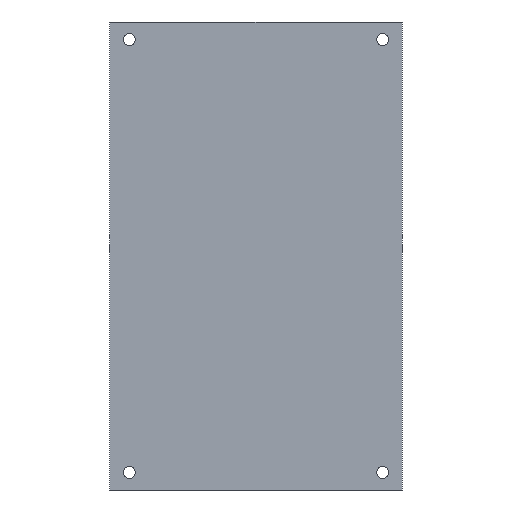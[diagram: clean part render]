
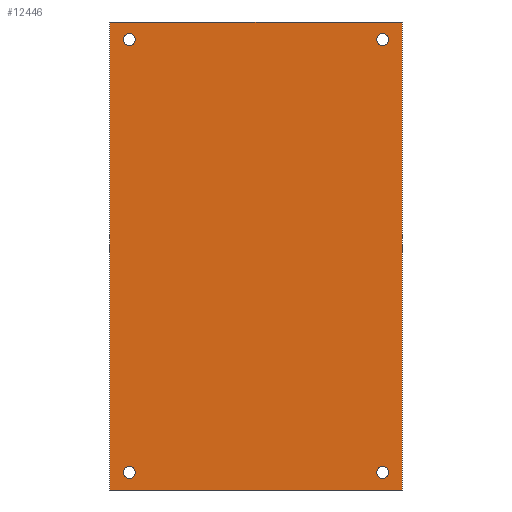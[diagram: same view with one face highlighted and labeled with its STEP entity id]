
A CAD part, front view. The second image highlights one B-rep face of the part: STEP entity #12446.
In plain terms, the highlighted planar face has unit normal (0, -1, 0).
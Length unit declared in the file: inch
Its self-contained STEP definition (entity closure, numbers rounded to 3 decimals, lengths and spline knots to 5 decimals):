
#459=FACE_BOUND('',#5306,.T.);
#460=FACE_BOUND('',#5307,.T.);
#461=FACE_BOUND('',#5308,.T.);
#462=FACE_BOUND('',#5309,.T.);
#1525=LINE('',#21554,#2300);
#1527=LINE('',#21558,#2302);
#1530=LINE('',#21563,#2305);
#1534=LINE('',#21593,#2309);
#2300=VECTOR('',#17652,0.3937);
#2302=VECTOR('',#17656,0.3937);
#2305=VECTOR('',#17661,0.3937);
#2309=VECTOR('',#17701,0.3937);
#2595=PLANE('',#13949);
#4145=FACE_OUTER_BOUND('',#5305,.T.);
#5305=EDGE_LOOP('',(#11405,#11406,#11407,#11408));
#5306=EDGE_LOOP('',(#11409));
#5307=EDGE_LOOP('',(#11410));
#5308=EDGE_LOOP('',(#11411));
#5309=EDGE_LOOP('',(#11412));
#5953=CIRCLE('',#13936,0.06693);
#5955=CIRCLE('',#13939,0.06693);
#5957=CIRCLE('',#13942,0.06693);
#5959=CIRCLE('',#13945,0.06693);
#6980=VERTEX_POINT('',#21551);
#6981=VERTEX_POINT('',#21553);
#6982=VERTEX_POINT('',#21557);
#6983=VERTEX_POINT('',#21562);
#6984=VERTEX_POINT('',#21570);
#6986=VERTEX_POINT('',#21575);
#6988=VERTEX_POINT('',#21580);
#6990=VERTEX_POINT('',#21585);
#8455=EDGE_CURVE('',#6981,#6980,#1525,.T.);
#8457=EDGE_CURVE('',#6982,#6981,#1527,.T.);
#8460=EDGE_CURVE('',#6983,#6982,#1530,.T.);
#8462=EDGE_CURVE('',#6984,#6984,#5953,.T.);
#8464=EDGE_CURVE('',#6986,#6986,#5955,.T.);
#8466=EDGE_CURVE('',#6988,#6988,#5957,.T.);
#8468=EDGE_CURVE('',#6990,#6990,#5959,.T.);
#8472=EDGE_CURVE('',#6980,#6983,#1534,.T.);
#11405=ORIENTED_EDGE('',*,*,#8472,.T.);
#11406=ORIENTED_EDGE('',*,*,#8460,.T.);
#11407=ORIENTED_EDGE('',*,*,#8457,.T.);
#11408=ORIENTED_EDGE('',*,*,#8455,.T.);
#11409=ORIENTED_EDGE('',*,*,#8462,.T.);
#11410=ORIENTED_EDGE('',*,*,#8464,.T.);
#11411=ORIENTED_EDGE('',*,*,#8466,.T.);
#11412=ORIENTED_EDGE('',*,*,#8468,.T.);
#12446=ADVANCED_FACE('',(#4145,#459,#460,#461,#462),#2595,.T.);
#13936=AXIS2_PLACEMENT_3D('',#21571,#17673,#17674);
#13939=AXIS2_PLACEMENT_3D('',#21576,#17679,#17680);
#13942=AXIS2_PLACEMENT_3D('',#21581,#17685,#17686);
#13945=AXIS2_PLACEMENT_3D('',#21586,#17691,#17692);
#13949=AXIS2_PLACEMENT_3D('',#21594,#17702,#17703);
#17652=DIRECTION('',(0.,0.,1.));
#17656=DIRECTION('',(1.,0.,0.));
#17661=DIRECTION('',(0.,0.,-1.));
#17673=DIRECTION('center_axis',(0.,1.,0.));
#17674=DIRECTION('ref_axis',(1.,0.,0.));
#17679=DIRECTION('center_axis',(0.,1.,0.));
#17680=DIRECTION('ref_axis',(1.,0.,0.));
#17685=DIRECTION('center_axis',(0.,1.,0.));
#17686=DIRECTION('ref_axis',(1.,0.,0.));
#17691=DIRECTION('center_axis',(0.,1.,0.));
#17692=DIRECTION('ref_axis',(1.,0.,0.));
#17701=DIRECTION('',(-1.,0.,0.));
#17702=DIRECTION('center_axis',(0.,-1.,0.));
#17703=DIRECTION('ref_axis',(0.,0.,-1.));
#21551=CARTESIAN_POINT('',(2.25577,-0.21318,2.45176));
#21553=CARTESIAN_POINT('',(2.25577,-0.21318,-2.78446));
#21554=CARTESIAN_POINT('',(2.25577,-0.21318,-2.78446));
#21557=CARTESIAN_POINT('',(-1.01194,-0.21318,-2.78446));
#21558=CARTESIAN_POINT('',(-1.01194,-0.21318,-2.78446));
#21562=CARTESIAN_POINT('',(-1.01194,-0.21318,2.45176));
#21563=CARTESIAN_POINT('',(-1.01194,-0.21318,2.45176));
#21570=CARTESIAN_POINT('',(1.97231,-0.21318,-2.58761));
#21571=CARTESIAN_POINT('Origin',(2.03924,-0.21318,-2.58761));
#21575=CARTESIAN_POINT('',(-0.86234,-0.21318,2.25491));
#21576=CARTESIAN_POINT('Origin',(-0.79541,-0.21318,
2.25491));
#21580=CARTESIAN_POINT('',(-0.86234,-0.21318,-2.58761));
#21581=CARTESIAN_POINT('Origin',(-0.79541,-0.21318,
-2.58761));
#21585=CARTESIAN_POINT('',(1.97231,-0.21318,2.25491));
#21586=CARTESIAN_POINT('Origin',(2.03924,-0.21318,2.25491));
#21593=CARTESIAN_POINT('',(2.25577,-0.21318,2.45176));
#21594=CARTESIAN_POINT('Origin',(0.62192,-0.21318,-0.16635));
